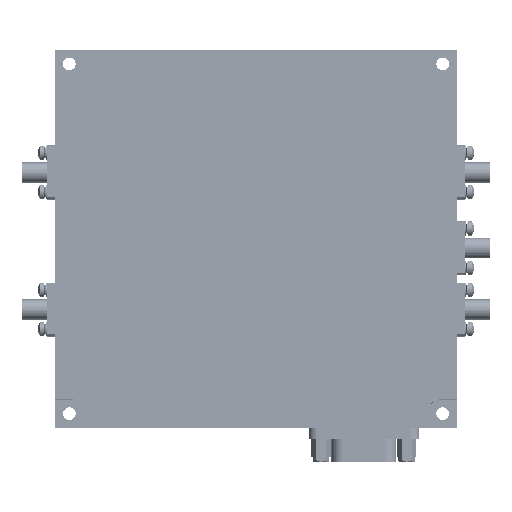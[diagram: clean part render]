
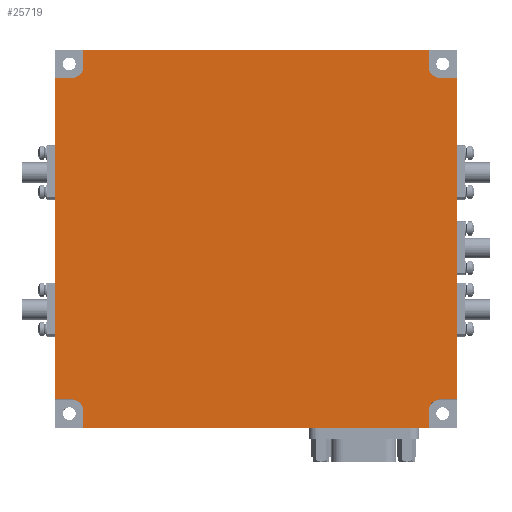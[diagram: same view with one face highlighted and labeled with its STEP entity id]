
A CAD part, top view. The second image highlights one B-rep face of the part: STEP entity #25719.
In plain terms, the highlighted planar face has unit normal (0, 0, 1).
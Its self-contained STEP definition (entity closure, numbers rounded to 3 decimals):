
#133 = DIRECTION ( 'NONE',  ( 0., -1., 0. ) ) ;
#239 = CARTESIAN_POINT ( 'NONE',  ( 103.57, 154.528, 19. ) ) ;
#436 = DIRECTION ( 'NONE',  ( -1., 0., 0. ) ) ;
#584 = EDGE_CURVE ( 'NONE', #22215, #8876, #12301, .T. ) ;
#922 = LINE ( 'NONE', #19220, #9760 ) ;
#950 = AXIS2_PLACEMENT_3D ( 'NONE', #13940, #16255, #18643 ) ;
#1066 = AXIS2_PLACEMENT_3D ( 'NONE', #239, #19905, #8909 ) ;
#1593 = CARTESIAN_POINT ( 'NONE',  ( 106.07, 78.028, 19. ) ) ;
#1711 = DIRECTION ( 'NONE',  ( 1., 0., 0. ) ) ;
#1897 = EDGE_CURVE ( 'NONE', #6103, #26800, #20108, .T. ) ;
#2032 = ORIENTED_EDGE ( 'NONE', *, *, #15674, .F. ) ;
#2066 = LINE ( 'NONE', #13595, #3428 ) ;
#2129 = VERTEX_POINT ( 'NONE', #3050 ) ;
#2247 = LINE ( 'NONE', #22241, #24060 ) ;
#2333 = CARTESIAN_POINT ( 'NONE',  ( 185.07, 84.028, 19. ) ) ;
#3033 = ORIENTED_EDGE ( 'NONE', *, *, #4315, .T. ) ;
#3050 = CARTESIAN_POINT ( 'NONE',  ( 179.07, 78.028, 19. ) ) ;
#3428 = VECTOR ( 'NONE', #24466, 1000. ) ;
#3778 = CARTESIAN_POINT ( 'NONE',  ( 0., 152.028, 19. ) ) ;
#3854 = EDGE_CURVE ( 'NONE', #26800, #2129, #15622, .T. ) ;
#4136 = VERTEX_POINT ( 'NONE', #5291 ) ;
#4315 = EDGE_CURVE ( 'NONE', #15802, #8876, #922, .T. ) ;
#4353 = VECTOR ( 'NONE', #133, 1000. ) ;
#4359 = EDGE_CURVE ( 'NONE', #16859, #5457, #11801, .T. ) ;
#4430 = CARTESIAN_POINT ( 'NONE',  ( 179.07, 76.535, 19. ) ) ;
#4900 = CARTESIAN_POINT ( 'NONE',  ( 103.57, 81.528, 19. ) ) ;
#4925 = EDGE_CURVE ( 'NONE', #23233, #4136, #13461, .T. ) ;
#5291 = CARTESIAN_POINT ( 'NONE',  ( 106.07, 81.528, 19. ) ) ;
#5457 = VERTEX_POINT ( 'NONE', #22987 ) ;
#5905 = ORIENTED_EDGE ( 'NONE', *, *, #27527, .F. ) ;
#6066 = VECTOR ( 'NONE', #26078, 1000. ) ;
#6080 = DIRECTION ( 'NONE',  ( 1., 0., 0. ) ) ;
#6103 = VERTEX_POINT ( 'NONE', #8568 ) ;
#6110 = VERTEX_POINT ( 'NONE', #19193 ) ;
#6253 = ORIENTED_EDGE ( 'NONE', *, *, #25087, .F. ) ;
#6632 = CARTESIAN_POINT ( 'NONE',  ( 100.07, 152.028, 19. ) ) ;
#6814 = CARTESIAN_POINT ( 'NONE',  ( 100.07, 78.028, 19. ) ) ;
#7162 = LINE ( 'NONE', #21057, #25583 ) ;
#7406 = CARTESIAN_POINT ( 'NONE',  ( 0., 84.028, 19. ) ) ;
#7583 = VERTEX_POINT ( 'NONE', #2333 ) ;
#8083 = DIRECTION ( 'NONE',  ( 0., 0., 1. ) ) ;
#8289 = ORIENTED_EDGE ( 'NONE', *, *, #4925, .F. ) ;
#8438 = ORIENTED_EDGE ( 'NONE', *, *, #26212, .F. ) ;
#8443 = VERTEX_POINT ( 'NONE', #12194 ) ;
#8568 = CARTESIAN_POINT ( 'NONE',  ( 181.57, 84.028, 19. ) ) ;
#8571 = ORIENTED_EDGE ( 'NONE', *, *, #18806, .T. ) ;
#8876 = VERTEX_POINT ( 'NONE', #15634 ) ;
#8909 = DIRECTION ( 'NONE',  ( 1., 0., 0. ) ) ;
#9230 = CIRCLE ( 'NONE', #10438, 2.5 ) ;
#9472 = DIRECTION ( 'NONE',  ( -1., 0., 0. ) ) ;
#9637 = ORIENTED_EDGE ( 'NONE', *, *, #10146, .F. ) ;
#9758 = CARTESIAN_POINT ( 'NONE',  ( 100.07, 158.028, 19. ) ) ;
#9760 = VECTOR ( 'NONE', #10878, 1000. ) ;
#9927 = CARTESIAN_POINT ( 'NONE',  ( 179.07, 81.528, 19. ) ) ;
#10146 = EDGE_CURVE ( 'NONE', #6110, #27478, #23921, .T. ) ;
#10438 = AXIS2_PLACEMENT_3D ( 'NONE', #4900, #23275, #25982 ) ;
#10751 = EDGE_CURVE ( 'NONE', #27478, #21609, #2066, .T. ) ;
#10870 = DIRECTION ( 'NONE',  ( -1., 0., 0. ) ) ;
#10878 = DIRECTION ( 'NONE',  ( 0., -1., 0. ) ) ;
#11185 = EDGE_CURVE ( 'NONE', #5457, #21321, #14003, .T. ) ;
#11297 = CARTESIAN_POINT ( 'NONE',  ( 99.052, 84.028, 19. ) ) ;
#11305 = DIRECTION ( 'NONE',  ( 0., 1., 0. ) ) ;
#11801 = LINE ( 'NONE', #28065, #6066 ) ;
#12007 = VECTOR ( 'NONE', #9472, 1000. ) ;
#12194 = CARTESIAN_POINT ( 'NONE',  ( 185.07, 152.028, 19. ) ) ;
#12280 = DIRECTION ( 'NONE',  ( 0., 1., 0. ) ) ;
#12301 = LINE ( 'NONE', #11297, #19517 ) ;
#12344 = CARTESIAN_POINT ( 'NONE',  ( 179.07, 158.028, 19. ) ) ;
#12555 = CARTESIAN_POINT ( 'NONE',  ( 181.57, 152.028, 19. ) ) ;
#12653 = ORIENTED_EDGE ( 'NONE', *, *, #25183, .T. ) ;
#13306 = EDGE_LOOP ( 'NONE', ( #6253, #18364, #5905, #26231, #15847, #12653, #24075, #9637, #2032, #3033, #26304, #8438, #8289, #8571, #14653, #15571 ) ) ;
#13461 = LINE ( 'NONE', #16985, #14516 ) ;
#13595 = CARTESIAN_POINT ( 'NONE',  ( 106.07, 154.528, 19. ) ) ;
#13940 = CARTESIAN_POINT ( 'NONE',  ( 0., 0., 19. ) ) ;
#14003 = CIRCLE ( 'NONE', #26306, 2.5 ) ;
#14481 = DIRECTION ( 'NONE',  ( -1., 0., 0. ) ) ;
#14516 = VECTOR ( 'NONE', #12280, 1000. ) ;
#14653 = ORIENTED_EDGE ( 'NONE', *, *, #3854, .F. ) ;
#15396 = DIRECTION ( 'NONE',  ( 1., 0., 0. ) ) ;
#15498 = LINE ( 'NONE', #3778, #20606 ) ;
#15571 = ORIENTED_EDGE ( 'NONE', *, *, #1897, .F. ) ;
#15622 = LINE ( 'NONE', #4430, #4353 ) ;
#15634 = CARTESIAN_POINT ( 'NONE',  ( 100.07, 84.028, 19. ) ) ;
#15674 = EDGE_CURVE ( 'NONE', #15802, #6110, #15498, .T. ) ;
#15802 = VERTEX_POINT ( 'NONE', #6632 ) ;
#15847 = ORIENTED_EDGE ( 'NONE', *, *, #4359, .F. ) ;
#16255 = DIRECTION ( 'NONE',  ( 0., 0., 1. ) ) ;
#16763 = AXIS2_PLACEMENT_3D ( 'NONE', #19490, #17294, #10870 ) ;
#16859 = VERTEX_POINT ( 'NONE', #12344 ) ;
#16985 = CARTESIAN_POINT ( 'NONE',  ( 106.07, 0., 19. ) ) ;
#17294 = DIRECTION ( 'NONE',  ( 0., 0., 1. ) ) ;
#18364 = ORIENTED_EDGE ( 'NONE', *, *, #21987, .T. ) ;
#18643 = DIRECTION ( 'NONE',  ( 1., 0., 0. ) ) ;
#18806 = EDGE_CURVE ( 'NONE', #23233, #2129, #23869, .T. ) ;
#19193 = CARTESIAN_POINT ( 'NONE',  ( 103.57, 152.028, 19. ) ) ;
#19220 = CARTESIAN_POINT ( 'NONE',  ( 100.07, 158.028, 19. ) ) ;
#19490 = CARTESIAN_POINT ( 'NONE',  ( 181.57, 81.528, 19. ) ) ;
#19517 = VECTOR ( 'NONE', #436, 1000. ) ;
#19902 = LINE ( 'NONE', #7406, #12007 ) ;
#19905 = DIRECTION ( 'NONE',  ( 0., 0., 1. ) ) ;
#20108 = CIRCLE ( 'NONE', #16763, 2.5 ) ;
#20606 = VECTOR ( 'NONE', #6080, 1000. ) ;
#21057 = CARTESIAN_POINT ( 'NONE',  ( 187.868, 152.028, 19. ) ) ;
#21321 = VERTEX_POINT ( 'NONE', #12555 ) ;
#21609 = VERTEX_POINT ( 'NONE', #28113 ) ;
#21987 = EDGE_CURVE ( 'NONE', #7583, #8443, #2247, .T. ) ;
#22215 = VERTEX_POINT ( 'NONE', #23210 ) ;
#22241 = CARTESIAN_POINT ( 'NONE',  ( 185.07, 158.028, 19. ) ) ;
#22568 = FACE_OUTER_BOUND ( 'NONE', #13306, .T. ) ;
#22987 = CARTESIAN_POINT ( 'NONE',  ( 179.07, 154.528, 19. ) ) ;
#23046 = CARTESIAN_POINT ( 'NONE',  ( 181.57, 154.528, 19. ) ) ;
#23198 = VECTOR ( 'NONE', #15396, 1000. ) ;
#23210 = CARTESIAN_POINT ( 'NONE',  ( 103.57, 84.028, 19. ) ) ;
#23233 = VERTEX_POINT ( 'NONE', #1593 ) ;
#23275 = DIRECTION ( 'NONE',  ( 0., 0., 1. ) ) ;
#23284 = VECTOR ( 'NONE', #25028, 1000. ) ;
#23869 = LINE ( 'NONE', #6814, #23198 ) ;
#23921 = CIRCLE ( 'NONE', #1066, 2.5 ) ;
#23962 = LINE ( 'NONE', #9758, #23284 ) ;
#24060 = VECTOR ( 'NONE', #11305, 1000. ) ;
#24075 = ORIENTED_EDGE ( 'NONE', *, *, #10751, .F. ) ;
#24466 = DIRECTION ( 'NONE',  ( 0., 1., 0. ) ) ;
#25028 = DIRECTION ( 'NONE',  ( -1., 0., 0. ) ) ;
#25087 = EDGE_CURVE ( 'NONE', #7583, #6103, #19902, .T. ) ;
#25183 = EDGE_CURVE ( 'NONE', #16859, #21609, #23962, .T. ) ;
#25543 = CARTESIAN_POINT ( 'NONE',  ( 106.07, 154.528, 19. ) ) ;
#25583 = VECTOR ( 'NONE', #1711, 1000. ) ;
#25719 = ADVANCED_FACE ( 'NONE', ( #22568 ), #27016, .T. ) ;
#25982 = DIRECTION ( 'NONE',  ( -1., 0., 0. ) ) ;
#26078 = DIRECTION ( 'NONE',  ( 0., -1., 0. ) ) ;
#26212 = EDGE_CURVE ( 'NONE', #4136, #22215, #9230, .T. ) ;
#26231 = ORIENTED_EDGE ( 'NONE', *, *, #11185, .F. ) ;
#26304 = ORIENTED_EDGE ( 'NONE', *, *, #584, .F. ) ;
#26306 = AXIS2_PLACEMENT_3D ( 'NONE', #23046, #8083, #14481 ) ;
#26800 = VERTEX_POINT ( 'NONE', #9927 ) ;
#27016 = PLANE ( 'NONE',  #950 ) ;
#27478 = VERTEX_POINT ( 'NONE', #25543 ) ;
#27527 = EDGE_CURVE ( 'NONE', #21321, #8443, #7162, .T. ) ;
#28065 = CARTESIAN_POINT ( 'NONE',  ( 179.07, 0., 19. ) ) ;
#28113 = CARTESIAN_POINT ( 'NONE',  ( 106.07, 158.028, 19. ) ) ;
